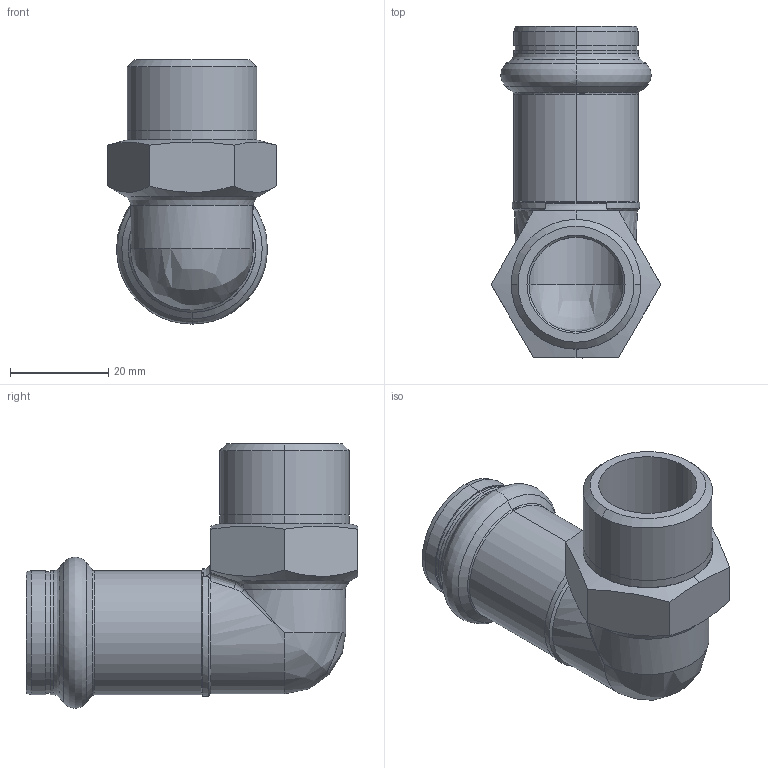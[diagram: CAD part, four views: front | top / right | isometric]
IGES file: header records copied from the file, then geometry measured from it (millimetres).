
Start section: Elysium IGES Interface
Global section: file name: F:\3d modellen sudo\S-Pr VP\SP6092GV\6092GVW2234.igs; native system: CoCreate Modeling 17.00A  17-Jun-2010; preprocessor: CoCreate IGES_3D V2.2; author: Unknown; organization: Unknown; date: 20130124.152935; units: millimetre
Bounding box: 34.64 x 67.7 x 53.89 mm (x, y, z)
Volume: 19616.1 mm3; surface area: 14302.4 mm2
Topology: 1 solids, 1 shells, 92 faces, 219 edges, 125 vertices
Faces by surface type: bspline 92
